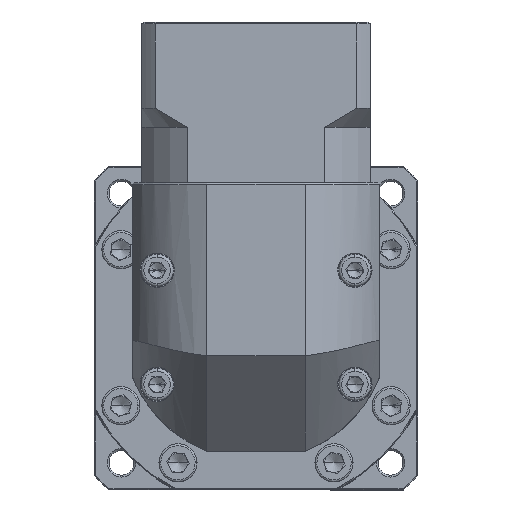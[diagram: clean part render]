
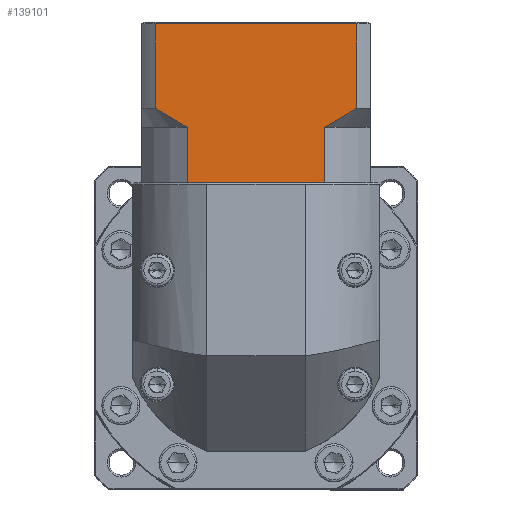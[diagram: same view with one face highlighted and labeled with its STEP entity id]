
A CAD part, top view. The second image highlights one B-rep face of the part: STEP entity #139101.
In plain terms, the highlighted planar face has unit normal (0, 0, 1).
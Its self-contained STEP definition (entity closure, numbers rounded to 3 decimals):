
#2152 = CARTESIAN_POINT ( 'NONE',  ( -107.843, 78.598, 55.04 ) ) ;
#4329 = EDGE_CURVE ( 'NONE', #146042, #12111, #101331, .T. ) ;
#4589 = EDGE_CURVE ( 'NONE', #35353, #12111, #19656, .T. ) ;
#4794 = CARTESIAN_POINT ( 'NONE',  ( -63.358, 78.598, 55.04 ) ) ;
#5062 = VERTEX_POINT ( 'NONE', #24260 ) ;
#5785 = B_SPLINE_CURVE_WITH_KNOTS ( 'NONE', 3,
 ( #4794, #39330, #27035, #17006, #100236, #125160 ),
 .UNSPECIFIED., .F., .F.,
 ( 4, 2, 4 ),
 ( 0.1, 0.104, 0.109 ),
 .UNSPECIFIED. ) ;
#5918 = EDGE_CURVE ( 'NONE', #43814, #42314, #51480, .T. ) ;
#6646 = FACE_OUTER_BOUND ( 'NONE', #29084, .T. ) ;
#7483 = CARTESIAN_POINT ( 'NONE',  ( -54.928, 78.598, 55.04 ) ) ;
#11375 = CARTESIAN_POINT ( 'NONE',  ( -64.349, 64.098, 55.04 ) ) ;
#12111 = VERTEX_POINT ( 'NONE', #30352 ) ;
#14437 = VERTEX_POINT ( 'NONE', #28057 ) ;
#14781 = VECTOR ( 'NONE', #24785, 1000. ) ;
#15277 = ORIENTED_EDGE ( 'NONE', *, *, #4589, .F. ) ;
#15659 = DIRECTION ( 'NONE',  ( 1., 0., 0. ) ) ;
#17006 = CARTESIAN_POINT ( 'NONE',  ( -57.671, 81.823, 55.04 ) ) ;
#19656 = LINE ( 'NONE', #2152, #25247 ) ;
#21599 = ORIENTED_EDGE ( 'NONE', *, *, #130655, .F. ) ;
#21880 = CARTESIAN_POINT ( 'NONE',  ( -111.386, 105.798, 55.04 ) ) ;
#23052 = ORIENTED_EDGE ( 'NONE', *, *, #34804, .T. ) ;
#23739 = CARTESIAN_POINT ( 'NONE',  ( -111.386, 106.298, 55.04 ) ) ;
#24260 = CARTESIAN_POINT ( 'NONE',  ( -99.414, 64.098, 55.04 ) ) ;
#24600 = CARTESIAN_POINT ( 'NONE',  ( -105.105, 81.826, 55.04 ) ) ;
#24785 = DIRECTION ( 'NONE',  ( 1., 0., 0. ) ) ;
#25247 = VECTOR ( 'NONE', #149122, 1000. ) ;
#27035 = CARTESIAN_POINT ( 'NONE',  ( -60.476, 80.149, 55.04 ) ) ;
#28057 = CARTESIAN_POINT ( 'NONE',  ( -99.414, 78.598, 55.04 ) ) ;
#28163 = CARTESIAN_POINT ( 'NONE',  ( -63.358, 78.598, 55.04 ) ) ;
#29084 = EDGE_LOOP ( 'NONE', ( #21599, #99440, #15277, #59121, #45391, #61545, #115650, #95712, #103429, #23052 ) ) ;
#30352 = CARTESIAN_POINT ( 'NONE',  ( -107.843, 105.798, 55.04 ) ) ;
#31462 = EDGE_CURVE ( 'NONE', #125561, #42314, #143719, .T. ) ;
#34348 = DIRECTION ( 'NONE',  ( 0., 0., -1. ) ) ;
#34804 = EDGE_CURVE ( 'NONE', #125561, #100321, #5785, .T. ) ;
#35353 = VERTEX_POINT ( 'NONE', #144182 ) ;
#39330 = CARTESIAN_POINT ( 'NONE',  ( -61.902, 79.349, 55.04 ) ) ;
#42314 = VERTEX_POINT ( 'NONE', #73411 ) ;
#43800 = EDGE_CURVE ( 'NONE', #35353, #14437, #125008, .T. ) ;
#43814 = VERTEX_POINT ( 'NONE', #11375 ) ;
#45391 = ORIENTED_EDGE ( 'NONE', *, *, #116061, .F. ) ;
#46381 = CARTESIAN_POINT ( 'NONE',  ( -111.386, 64.098, 55.04 ) ) ;
#46989 = LINE ( 'NONE', #147357, #14781 ) ;
#51480 = LINE ( 'NONE', #88313, #136913 ) ;
#53888 = VECTOR ( 'NONE', #82864, 1000. ) ;
#59121 = ORIENTED_EDGE ( 'NONE', *, *, #43800, .T. ) ;
#61545 = ORIENTED_EDGE ( 'NONE', *, *, #71438, .T. ) ;
#67836 = PLANE ( 'NONE',  #90771 ) ;
#67888 = CARTESIAN_POINT ( 'NONE',  ( -54.928, 83.598, 55.04 ) ) ;
#71102 = CARTESIAN_POINT ( 'NONE',  ( -98.423, 64.098, 55.04 ) ) ;
#71438 = EDGE_CURVE ( 'NONE', #5062, #99403, #90053, .T. ) ;
#72095 = VECTOR ( 'NONE', #99989, 1000. ) ;
#73411 = CARTESIAN_POINT ( 'NONE',  ( -63.358, 64.098, 55.04 ) ) ;
#74176 = VECTOR ( 'NONE', #128907, 1000. ) ;
#82864 = DIRECTION ( 'NONE',  ( -1., 0., 0. ) ) ;
#85110 = CARTESIAN_POINT ( 'NONE',  ( -102.297, 80.15, 55.04 ) ) ;
#86300 = CARTESIAN_POINT ( 'NONE',  ( -54.928, 105.798, 55.04 ) ) ;
#86774 = CARTESIAN_POINT ( 'NONE',  ( -99.414, 78.598, 55.04 ) ) ;
#88313 = CARTESIAN_POINT ( 'NONE',  ( -111.386, 64.098, 55.04 ) ) ;
#90053 = LINE ( 'NONE', #46381, #145160 ) ;
#90771 = AXIS2_PLACEMENT_3D ( 'NONE', #23739, #34348, #144688 ) ;
#95712 = ORIENTED_EDGE ( 'NONE', *, *, #5918, .T. ) ;
#99403 = VERTEX_POINT ( 'NONE', #71102 ) ;
#99440 = ORIENTED_EDGE ( 'NONE', *, *, #4329, .T. ) ;
#99989 = DIRECTION ( 'NONE',  ( 0., 1., 0. ) ) ;
#100236 = CARTESIAN_POINT ( 'NONE',  ( -56.291, 82.697, 55.04 ) ) ;
#100321 = VERTEX_POINT ( 'NONE', #67888 ) ;
#101331 = LINE ( 'NONE', #21880, #53888 ) ;
#102350 = LINE ( 'NONE', #86774, #72095 ) ;
#103429 = ORIENTED_EDGE ( 'NONE', *, *, #31462, .F. ) ;
#106383 = LINE ( 'NONE', #7483, #74176 ) ;
#107350 = DIRECTION ( 'NONE',  ( 1., 0., 0. ) ) ;
#109460 = CARTESIAN_POINT ( 'NONE',  ( -100.866, 79.346, 55.04 ) ) ;
#110505 = CARTESIAN_POINT ( 'NONE',  ( -106.483, 82.699, 55.04 ) ) ;
#115650 = ORIENTED_EDGE ( 'NONE', *, *, #150527, .T. ) ;
#116061 = EDGE_CURVE ( 'NONE', #5062, #14437, #102350, .T. ) ;
#125008 = B_SPLINE_CURVE_WITH_KNOTS ( 'NONE', 3,
 ( #157364, #110505, #24600, #85110, #109460, #146111 ),
 .UNSPECIFIED., .F., .F.,
 ( 4, 2, 4 ),
 ( 0.052, 0.057, 0.062 ),
 .UNSPECIFIED. ) ;
#125160 = CARTESIAN_POINT ( 'NONE',  ( -54.928, 83.598, 55.04 ) ) ;
#125561 = VERTEX_POINT ( 'NONE', #138108 ) ;
#128907 = DIRECTION ( 'NONE',  ( 0., -1., 0. ) ) ;
#130655 = EDGE_CURVE ( 'NONE', #146042, #100321, #106383, .T. ) ;
#136913 = VECTOR ( 'NONE', #15659, 1000. ) ;
#138108 = CARTESIAN_POINT ( 'NONE',  ( -63.358, 78.598, 55.04 ) ) ;
#139101 = ADVANCED_FACE ( 'NONE', ( #6646 ), #67836, .F. ) ;
#140621 = DIRECTION ( 'NONE',  ( 0., -1., 0. ) ) ;
#143719 = LINE ( 'NONE', #28163, #153207 ) ;
#144182 = CARTESIAN_POINT ( 'NONE',  ( -107.843, 83.598, 55.04 ) ) ;
#144688 = DIRECTION ( 'NONE',  ( 0., 1., 0. ) ) ;
#145160 = VECTOR ( 'NONE', #107350, 1000. ) ;
#146042 = VERTEX_POINT ( 'NONE', #86300 ) ;
#146111 = CARTESIAN_POINT ( 'NONE',  ( -99.414, 78.598, 55.04 ) ) ;
#147357 = CARTESIAN_POINT ( 'NONE',  ( -111.386, 64.098, 55.04 ) ) ;
#149122 = DIRECTION ( 'NONE',  ( 0., 1., 0. ) ) ;
#150527 = EDGE_CURVE ( 'NONE', #99403, #43814, #46989, .T. ) ;
#153207 = VECTOR ( 'NONE', #140621, 1000. ) ;
#157364 = CARTESIAN_POINT ( 'NONE',  ( -107.843, 83.598, 55.04 ) ) ;
